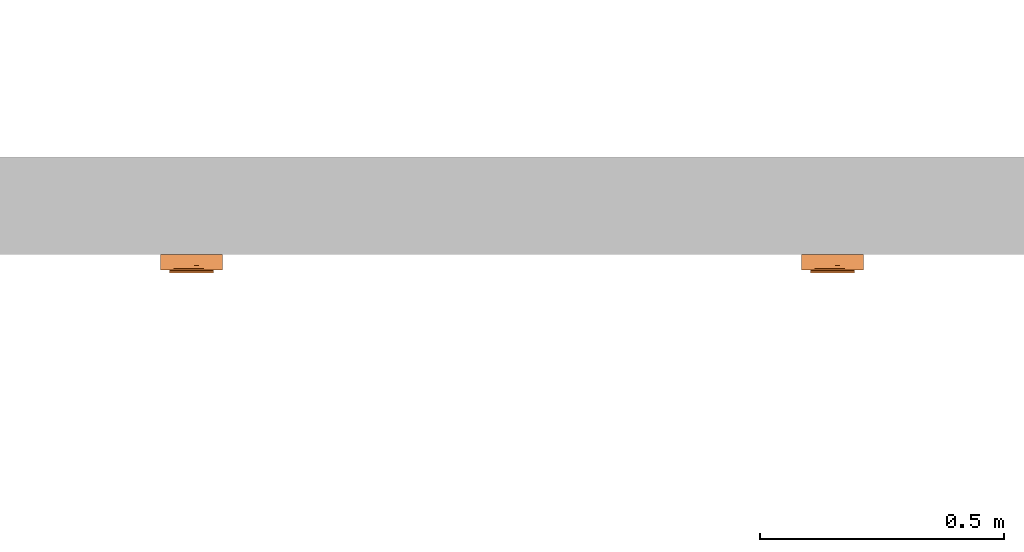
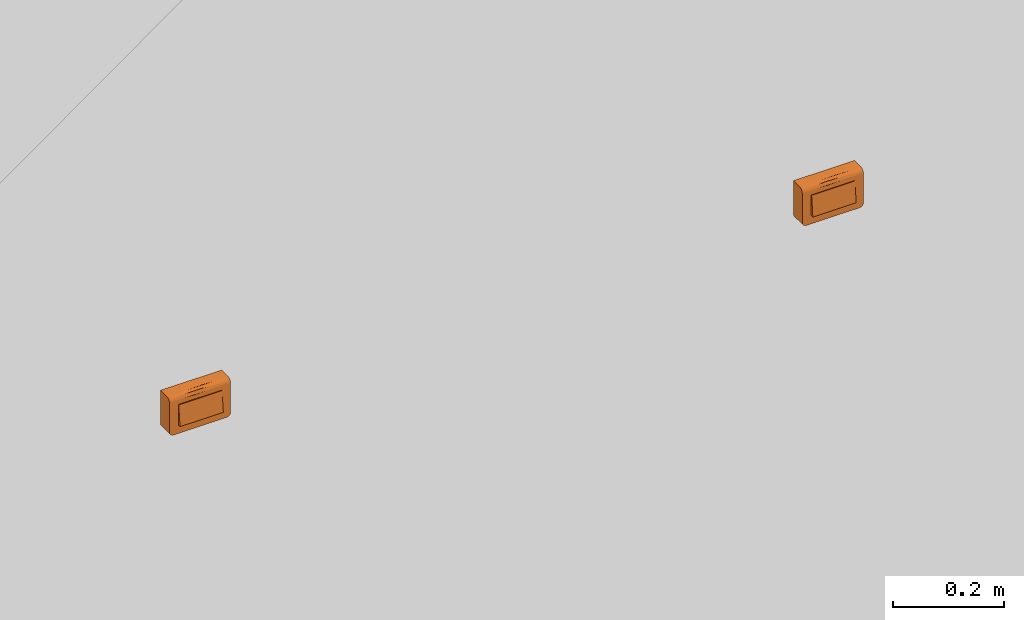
# One storey, part 137 of 197: 2 proxies.
"""IFC2X3 building model written with IfcOpenShell, lengths in metres."""

from ifc_helpers import new_model, entity, si_unit, converted_unit, direction, frame, origin, place, context, subcontext, project, spatial, faceted_brep, source, transform, mapped, material, material_list, type_object, type_shapes, element, save


model = new_model("IFC2X3")

# Units and contexts
model_context = context("Model", 3, precision=1e-05, world=origin(), true_north=direction((6.123031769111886e-17, 1.0)))
body_context = subcontext(model_context, "Body", "Model", "MODEL_VIEW")
ifc_project = project(units=[si_unit("LENGTHUNIT", "METRE"), converted_unit("PLANEANGLEUNIT", "DEGREE", entity("IfcPlaneAngleMeasure", 0.017453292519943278), si_unit("PLANEANGLEUNIT", "RADIAN"), dimensions=[0, 0, 0, 0, 0, 0, 0]), si_unit("AREAUNIT", "SQUARE_METRE")], contexts=[model_context])

# Site, building, storey
site_placement = place(None, origin())
site = spatial("IfcSite", under=ifc_project, at=site_placement, Name="Default", CompositionType="ELEMENT")
building_placement = place(site_placement, origin())
building = spatial("IfcBuilding", under=site, at=building_placement, CompositionType="ELEMENT")
storey_placement = place(building_placement, origin())
storey = spatial("IfcBuildingStorey", under=building, at=storey_placement, Name="Niveau 0", CompositionType="ELEMENT", Elevation=0.0)

# Proxies
ifc_material_1 = material(Name="BETCE-DOIGT-BLANC")
ifc_material_2 = material(Name="BETCE-CADRE-BLANC")
ifc_material_3 = material(Name="BETCE-ENJOLIVEUR-BLANC")
ifc_material_list = material_list([ifc_material_1, ifc_material_2, ifc_material_3])
building_element_proxy_type_1 = type_object("IfcBuildingElementProxyType", Name="Tableau commande 1x4 modules saillie:4 VV", PredefinedType="NOTDEFINED", material=ifc_material_list)
shared_shape_1 = source(origin(), body_context, "Body", "Brep", [
    faceted_brep([(-0.04499999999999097, -0.03350000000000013, 0.022499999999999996), (-0.04499999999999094, -0.038000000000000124, -0.022500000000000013), (-0.022500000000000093, -0.03799999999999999, -0.02249999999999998), (-0.02250000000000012, -0.0335, 0.022499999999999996), (-0.04499999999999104, -0.02299999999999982, -0.022500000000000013), (-0.04499999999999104, -0.02299999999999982, 0.022499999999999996), (-0.022500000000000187, -0.022999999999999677, 0.022499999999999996), (-0.022500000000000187, -0.022999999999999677, -0.022500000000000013)], [[[0, 1, 2, 3]], [[4, 5, 6, 7]], [[5, 4, 1, 0]], [[6, 5, 0, 3]], [[7, 6, 3, 2]], [[4, 7, 2, 1]]]),
    faceted_brep([(0.02250000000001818, -0.03349999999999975, 0.022499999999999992), (0.02250000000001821, -0.03799999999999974, -0.022500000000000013), (0.04500000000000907, -0.03799999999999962, -0.02250000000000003), (0.04500000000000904, -0.03349999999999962, 0.022499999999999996), (0.022500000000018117, -0.02299999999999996, -0.022500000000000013), (0.022500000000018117, -0.02299999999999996, 0.022499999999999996), (0.04500000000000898, -0.022999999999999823, 0.022499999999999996), (0.04500000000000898, -0.022999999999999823, -0.022500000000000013)], [[[0, 1, 2, 3]], [[4, 5, 6, 7]], [[5, 4, 1, 0]], [[6, 5, 0, 3]], [[7, 6, 3, 2]], [[4, 7, 2, 1]]]),
    faceted_brep([(0.0, -0.03349999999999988, 0.022499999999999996), (0.0, -0.03799999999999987, -0.022500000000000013), (0.022499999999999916, -0.03799999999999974, -0.022500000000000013), (0.022499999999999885, -0.03349999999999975, 0.022499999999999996), (0.0, -0.02299999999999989, -0.022500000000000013), (0.0, -0.02299999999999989, 0.022499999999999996), (0.022499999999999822, -0.02299999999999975, 0.022499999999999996), (0.022499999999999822, -0.02299999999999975, -0.022500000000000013)], [[[0, 1, 2, 3]], [[4, 5, 6, 7]], [[5, 4, 1, 0]], [[6, 5, 0, 3]], [[7, 6, 3, 2]], [[4, 7, 2, 1]]]),
    faceted_brep([(0.05550000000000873, -0.02299999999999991, -0.041000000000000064), (0.05757055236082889, -0.0229999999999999, -0.04072740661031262), (0.05950000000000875, -0.022999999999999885, -0.03992820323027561), (0.06115685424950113, -0.022999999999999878, -0.03865685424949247), (0.06242820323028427, -0.022999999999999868, -0.03700000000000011), (0.06322740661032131, -0.022999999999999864, -0.03507055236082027), (0.063500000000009, -0.02299999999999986, -0.033000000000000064), (0.06350000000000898, -0.02299999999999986, 0.04092306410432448), (-0.06349999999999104, -0.023000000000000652, 0.04092306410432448), (-0.06349999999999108, -0.023000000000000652, -0.032999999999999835), (-0.06322740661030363, -0.023000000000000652, -0.03507055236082), (-0.06242820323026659, -0.02300000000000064, -0.03699999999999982), (-0.06115685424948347, -0.023000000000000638, -0.0386568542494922), (-0.05949999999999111, -0.023000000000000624, -0.03992820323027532), (-0.05757055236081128, -0.023000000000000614, -0.040727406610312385), (-0.05549999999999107, -0.0230000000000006, -0.040999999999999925), (-0.05549999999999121, 0.0, -0.04099999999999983), (-0.05757055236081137, 0.0, -0.040727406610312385), (-0.05949999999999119, 0.0, -0.03992820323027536), (-0.061156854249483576, 0.0, -0.03865685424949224), (-0.06242820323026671, 0.0, -0.03699999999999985), (-0.06322740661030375, 0.0, -0.03507055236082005), (-0.06349999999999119, 0.0, -0.032999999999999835), (-0.06349999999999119, 0.0, 0.04092306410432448), (0.06350000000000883, 0.0, 0.04092306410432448), (0.06350000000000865, 0.0, -0.033), (0.0632274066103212, 0.0, -0.03507055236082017), (0.062428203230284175, 0.0, -0.037000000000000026), (0.06115685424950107, 0.0, -0.0386568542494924), (0.059500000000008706, 0.0, -0.039928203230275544), (0.05757055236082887, 0.0, -0.040727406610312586), (0.055500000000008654, 0.0, -0.040999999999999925)], [[[0, 1, 2, 3, 4, 5, 6, 7, 8, 9, 10, 11, 12, 13, 14, 15]], [[16, 17, 18, 19, 20, 21, 22, 23, 24, 25, 26, 27, 28, 29, 30, 31]], [[9, 8, 23, 22]], [[0, 15, 16, 31]], [[7, 6, 25, 24]], [[8, 7, 24, 23]], [[25, 6, 5, 26]], [[26, 5, 4, 27]], [[27, 4, 3, 28]], [[29, 2, 1, 30]], [[30, 1, 0, 31]], [[28, 3, 2, 29]], [[17, 16, 15, 14]], [[18, 17, 14, 13]], [[19, 18, 13, 12]], [[20, 19, 12, 11]], [[21, 20, 11, 10]], [[22, 21, 10, 9]]]),
    faceted_brep([(-0.022500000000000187, -0.02299999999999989, -0.022500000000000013), (-0.022500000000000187, -0.02299999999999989, 0.022499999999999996), (0.0, -0.02299999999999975, 0.022499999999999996), (0.0, -0.02299999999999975, -0.022500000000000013), (-0.022500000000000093, -0.03799999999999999, -0.0225), (-0.02250000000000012, -0.0335, 0.022499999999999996), (0.0, -0.03349999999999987, 0.022499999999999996), (0.0, -0.037999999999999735, -0.022500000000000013)], [[[0, 1, 2, 3]], [[1, 0, 4, 5]], [[2, 1, 5, 6]], [[3, 2, 6, 7]], [[0, 3, 7, 4]], [[5, 4, 7, 6]]]),
    faceted_brep([(0.06350000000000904, -0.031999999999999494, -0.03299999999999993), (0.06350000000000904, -0.031999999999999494, 0.0319999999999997), (0.04500000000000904, -0.031999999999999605, -0.022500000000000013), (0.05550000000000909, -0.03199999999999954, -0.040999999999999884), (0.05757055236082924, -0.03199999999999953, -0.040727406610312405), (0.05950000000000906, -0.03199999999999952, -0.039928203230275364), (0.06115685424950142, -0.03199999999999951, -0.038656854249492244), (0.06322740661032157, -0.031999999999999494, -0.03507055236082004), (0.04500000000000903, -0.031999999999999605, 0.022499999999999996), (-0.04499999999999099, -0.03200000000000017, 0.022499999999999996), (-0.011124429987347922, -0.032000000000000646, 0.031999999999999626), (-0.06349999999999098, -0.032000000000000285, 0.0319999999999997), (-0.04499999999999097, -0.03200000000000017, -0.022500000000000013), (-0.06349999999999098, -0.032000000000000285, -0.032999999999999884), (-0.05549999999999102, -0.03200000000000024, -0.040999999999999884), (-0.057570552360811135, -0.032000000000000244, -0.04072740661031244), (-0.05949999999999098, -0.03200000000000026, -0.0399282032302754), (-0.061156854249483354, -0.032000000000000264, -0.03865685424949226), (-0.06322740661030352, -0.03200000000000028, -0.03507055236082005), (-0.06242820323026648, -0.03200000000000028, -0.03699999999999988), (0.06242820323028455, -0.0319999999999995, -0.03699999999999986), (-0.06349999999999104, -0.023000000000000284, -0.032999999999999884), (-0.06349999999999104, -0.023000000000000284, 0.041000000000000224), (-0.04499999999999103, -0.023000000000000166, 0.022499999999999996), (-0.04499999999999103, -0.023000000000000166, -0.022500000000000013), (-0.05549999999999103, -0.023000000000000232, -0.040999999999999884), (-0.0575705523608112, -0.023000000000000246, -0.04072740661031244), (-0.059499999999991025, -0.023000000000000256, -0.0399282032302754), (-0.06322740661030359, -0.02300000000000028, -0.03507055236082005), (0.04500000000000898, -0.022999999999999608, 0.022499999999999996), (0.011124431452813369, -0.02299999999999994, 0.041000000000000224), (0.06350000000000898, -0.022999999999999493, 0.041000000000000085), (0.06350000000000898, -0.022999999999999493, -0.032999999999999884), (0.04500000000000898, -0.022999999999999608, -0.022500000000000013), (0.055500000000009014, -0.02299999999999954, -0.040999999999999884), (0.05757055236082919, -0.02299999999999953, -0.040727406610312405), (0.059500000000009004, -0.022999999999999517, -0.039928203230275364), (0.06322740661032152, -0.022999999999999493, -0.03507055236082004), (0.061156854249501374, -0.022999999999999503, -0.038656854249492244), (0.06242820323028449, -0.022999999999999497, -0.03699999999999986), (-0.0611568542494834, -0.023000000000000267, -0.03865685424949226), (-0.062428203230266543, -0.023000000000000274, -0.03699999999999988), (0.063500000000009, -0.02532937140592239, 0.04069333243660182), (0.06350000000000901, -0.027499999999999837, 0.039794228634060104), (0.06350000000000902, -0.029363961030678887, 0.03836396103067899), (0.06350000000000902, -0.030794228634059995, 0.03649999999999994), (0.06350000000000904, -0.03169333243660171, 0.03432937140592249), (-0.06349999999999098, -0.03169333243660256, 0.034329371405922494), (-0.063499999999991, -0.030794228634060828, 0.03649999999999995), (-0.063499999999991, -0.029363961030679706, 0.03836396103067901), (-0.06349999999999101, -0.027500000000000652, 0.039794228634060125), (-0.06349999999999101, -0.025329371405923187, 0.04069333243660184), (-0.010857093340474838, -0.02912089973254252, 0.03859807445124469)], [[[0, 1, 2]], [[3, 0, 2]], [[0, 3, 4]], [[0, 4, 5]], [[5, 6, 0]], [[7, 0, 6]], [[2, 1, 8]], [[1, 9, 8]], [[9, 1, 10]], [[9, 10, 11]], [[12, 9, 11]], [[13, 12, 11]], [[14, 12, 13]], [[14, 13, 15]], [[16, 15, 13]], [[13, 17, 16]], [[17, 13, 18]], [[17, 18, 19]], [[12, 14, 3]], [[2, 12, 3]], [[20, 7, 6]], [[21, 22, 23]], [[24, 21, 23]], [[25, 21, 24]], [[21, 25, 26]], [[21, 26, 27]], [[28, 21, 27]], [[22, 29, 23]], [[29, 22, 30]], [[29, 30, 31]], [[32, 29, 31]], [[33, 29, 32]], [[34, 33, 32]], [[34, 32, 35]], [[36, 35, 32]], [[36, 32, 37]], [[37, 38, 36]], [[38, 37, 39]], [[33, 34, 25]], [[24, 33, 25]], [[27, 40, 28]], [[41, 28, 40]], [[1, 0, 32, 31, 42, 43, 44, 45, 46]], [[37, 32, 0, 7]], [[39, 37, 7, 20]], [[38, 39, 20, 6]], [[36, 38, 6, 5]], [[35, 36, 5, 4]], [[34, 35, 4, 3]], [[25, 34, 3, 14]], [[26, 25, 14, 15]], [[27, 26, 15, 16]], [[40, 27, 16, 17]], [[41, 40, 17, 19]], [[28, 41, 19, 18]], [[21, 28, 18, 13]], [[22, 21, 13, 11, 47, 48, 49, 50, 51]], [[52, 10, 45]], [[47, 11, 10]], [[1, 46, 10]], [[44, 52, 45]], [[46, 45, 10]], [[50, 52, 51]], [[48, 47, 10]], [[30, 52, 43]], [[48, 52, 49]], [[42, 31, 30]], [[30, 22, 51]], [[48, 10, 52]], [[30, 43, 42]], [[44, 43, 52]], [[52, 50, 49]], [[52, 30, 51]], [[24, 23, 9, 12]], [[33, 24, 12, 2]], [[29, 33, 2, 8]], [[23, 29, 8, 9]]]),
])
type_shapes(building_element_proxy_type_1, [shared_shape_1])
proxy_1_placement = place(storey_placement, frame((-382.52677966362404, 116.01635778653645, 1.1)))
element("IfcBuildingElementProxy", 1, at=proxy_1_placement, inside=storey, type_object=building_element_proxy_type_1, material=ifc_material_list, Name="Tableau commande 1x4 modules saillie:4 VV", ObjectType="Tableau commande 1x4 modules saillie:4 VV", context=body_context, shape_type="MappedRepresentation", body=[
    mapped(shared_shape_1, transform((0.0, 0.0, 0.0), scale=1.0)),
])
building_element_proxy_type_2 = type_object("IfcBuildingElementProxyType", Name="Tableau commande 1x4 modules saillie:1 SA + 1 BP + 2 VV", PredefinedType="NOTDEFINED", material=ifc_material_list)
shared_shape_2 = source(origin(), body_context, "Body", "Brep", [
    faceted_brep([(-0.04499999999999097, -0.03350000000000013, 0.022499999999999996), (-0.04499999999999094, -0.038000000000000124, -0.022500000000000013), (-0.022500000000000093, -0.03799999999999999, -0.02249999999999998), (-0.02250000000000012, -0.0335, 0.022499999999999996), (-0.04499999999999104, -0.02299999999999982, -0.022500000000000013), (-0.04499999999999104, -0.02299999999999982, 0.022499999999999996), (-0.022500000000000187, -0.022999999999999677, 0.022499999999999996), (-0.022500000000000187, -0.022999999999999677, -0.022500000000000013)], [[[0, 1, 2, 3]], [[4, 5, 6, 7]], [[5, 4, 1, 0]], [[6, 5, 0, 3]], [[7, 6, 3, 2]], [[4, 7, 2, 1]]]),
    faceted_brep([(0.02250000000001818, -0.03349999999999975, 0.022499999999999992), (0.02250000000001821, -0.03799999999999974, -0.022500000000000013), (0.04500000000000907, -0.03799999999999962, -0.02250000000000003), (0.04500000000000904, -0.03349999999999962, 0.022499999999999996), (0.022500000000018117, -0.02299999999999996, -0.022500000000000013), (0.022500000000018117, -0.02299999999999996, 0.022499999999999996), (0.04500000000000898, -0.022999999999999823, 0.022499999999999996), (0.04500000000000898, -0.022999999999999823, -0.022500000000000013)], [[[0, 1, 2, 3]], [[4, 5, 6, 7]], [[5, 4, 1, 0]], [[6, 5, 0, 3]], [[7, 6, 3, 2]], [[4, 7, 2, 1]]]),
    faceted_brep([(0.0, -0.03349999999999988, 0.022499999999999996), (0.0, -0.03799999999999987, -0.022500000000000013), (0.022499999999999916, -0.03799999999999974, -0.022500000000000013), (0.022499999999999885, -0.03349999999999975, 0.022499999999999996), (0.0, -0.02299999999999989, -0.022500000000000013), (0.0, -0.02299999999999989, 0.022499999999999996), (0.022499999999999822, -0.02299999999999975, 0.022499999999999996), (0.022499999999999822, -0.02299999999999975, -0.022500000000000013)], [[[0, 1, 2, 3]], [[4, 5, 6, 7]], [[5, 4, 1, 0]], [[6, 5, 0, 3]], [[7, 6, 3, 2]], [[4, 7, 2, 1]]]),
    faceted_brep([(0.05550000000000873, -0.02299999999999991, -0.041000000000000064), (0.05757055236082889, -0.0229999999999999, -0.04072740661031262), (0.05950000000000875, -0.022999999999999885, -0.03992820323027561), (0.06115685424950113, -0.022999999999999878, -0.03865685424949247), (0.06242820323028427, -0.022999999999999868, -0.03700000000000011), (0.06322740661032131, -0.022999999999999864, -0.03507055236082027), (0.063500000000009, -0.02299999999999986, -0.033000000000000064), (0.06350000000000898, -0.02299999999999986, 0.04092306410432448), (-0.06349999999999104, -0.023000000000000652, 0.04092306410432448), (-0.06349999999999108, -0.023000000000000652, -0.032999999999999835), (-0.06322740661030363, -0.023000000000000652, -0.03507055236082), (-0.06242820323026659, -0.02300000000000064, -0.03699999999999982), (-0.06115685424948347, -0.023000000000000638, -0.0386568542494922), (-0.05949999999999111, -0.023000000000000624, -0.03992820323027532), (-0.05757055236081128, -0.023000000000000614, -0.040727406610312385), (-0.05549999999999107, -0.0230000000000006, -0.040999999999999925), (-0.05549999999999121, 0.0, -0.04099999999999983), (-0.05757055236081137, 0.0, -0.040727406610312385), (-0.05949999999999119, 0.0, -0.03992820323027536), (-0.061156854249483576, 0.0, -0.03865685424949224), (-0.06242820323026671, 0.0, -0.03699999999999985), (-0.06322740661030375, 0.0, -0.03507055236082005), (-0.06349999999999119, 0.0, -0.032999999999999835), (-0.06349999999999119, 0.0, 0.04092306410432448), (0.06350000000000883, 0.0, 0.04092306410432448), (0.06350000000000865, 0.0, -0.033), (0.0632274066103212, 0.0, -0.03507055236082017), (0.062428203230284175, 0.0, -0.037000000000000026), (0.06115685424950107, 0.0, -0.0386568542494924), (0.059500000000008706, 0.0, -0.039928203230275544), (0.05757055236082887, 0.0, -0.040727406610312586), (0.055500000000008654, 0.0, -0.040999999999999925)], [[[0, 1, 2, 3, 4, 5, 6, 7, 8, 9, 10, 11, 12, 13, 14, 15]], [[16, 17, 18, 19, 20, 21, 22, 23, 24, 25, 26, 27, 28, 29, 30, 31]], [[9, 8, 23, 22]], [[0, 15, 16, 31]], [[7, 6, 25, 24]], [[8, 7, 24, 23]], [[25, 6, 5, 26]], [[26, 5, 4, 27]], [[27, 4, 3, 28]], [[29, 2, 1, 30]], [[30, 1, 0, 31]], [[28, 3, 2, 29]], [[17, 16, 15, 14]], [[18, 17, 14, 13]], [[19, 18, 13, 12]], [[20, 19, 12, 11]], [[21, 20, 11, 10]], [[22, 21, 10, 9]]]),
    faceted_brep([(-0.022500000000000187, -0.02299999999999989, -0.022500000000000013), (-0.022500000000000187, -0.02299999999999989, 0.022499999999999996), (0.0, -0.02299999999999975, 0.022499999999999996), (0.0, -0.02299999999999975, -0.022500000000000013), (-0.022500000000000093, -0.03799999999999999, -0.0225), (-0.02250000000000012, -0.0335, 0.022499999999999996), (0.0, -0.03349999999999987, 0.022499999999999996), (0.0, -0.037999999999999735, -0.022500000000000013)], [[[0, 1, 2, 3]], [[1, 0, 4, 5]], [[2, 1, 5, 6]], [[3, 2, 6, 7]], [[0, 3, 7, 4]], [[5, 4, 7, 6]]]),
    faceted_brep([(0.06350000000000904, -0.031999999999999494, -0.03299999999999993), (0.06350000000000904, -0.031999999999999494, 0.0319999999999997), (0.04500000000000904, -0.031999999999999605, -0.022500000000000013), (0.05550000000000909, -0.03199999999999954, -0.040999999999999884), (0.05757055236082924, -0.03199999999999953, -0.040727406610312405), (0.05950000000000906, -0.03199999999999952, -0.039928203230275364), (0.06115685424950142, -0.03199999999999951, -0.038656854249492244), (0.06322740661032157, -0.031999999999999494, -0.03507055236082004), (0.04500000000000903, -0.031999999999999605, 0.022499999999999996), (-0.04499999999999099, -0.03200000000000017, 0.022499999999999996), (-0.011124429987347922, -0.032000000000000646, 0.031999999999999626), (-0.06349999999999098, -0.032000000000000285, 0.0319999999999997), (-0.04499999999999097, -0.03200000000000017, -0.022500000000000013), (-0.06349999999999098, -0.032000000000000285, -0.032999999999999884), (-0.05549999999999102, -0.03200000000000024, -0.040999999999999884), (-0.057570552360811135, -0.032000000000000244, -0.04072740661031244), (-0.05949999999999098, -0.03200000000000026, -0.0399282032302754), (-0.061156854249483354, -0.032000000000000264, -0.03865685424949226), (-0.06322740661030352, -0.03200000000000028, -0.03507055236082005), (-0.06242820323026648, -0.03200000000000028, -0.03699999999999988), (0.06242820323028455, -0.0319999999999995, -0.03699999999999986), (-0.06349999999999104, -0.023000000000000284, -0.032999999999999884), (-0.06349999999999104, -0.023000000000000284, 0.041000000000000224), (-0.04499999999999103, -0.023000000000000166, 0.022499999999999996), (-0.04499999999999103, -0.023000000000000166, -0.022500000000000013), (-0.05549999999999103, -0.023000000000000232, -0.040999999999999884), (-0.0575705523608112, -0.023000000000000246, -0.04072740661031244), (-0.059499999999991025, -0.023000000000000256, -0.0399282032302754), (-0.06322740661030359, -0.02300000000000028, -0.03507055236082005), (0.04500000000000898, -0.022999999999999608, 0.022499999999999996), (0.011124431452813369, -0.02299999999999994, 0.041000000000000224), (0.06350000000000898, -0.022999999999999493, 0.041000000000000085), (0.06350000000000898, -0.022999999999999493, -0.032999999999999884), (0.04500000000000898, -0.022999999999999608, -0.022500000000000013), (0.055500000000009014, -0.02299999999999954, -0.040999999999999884), (0.05757055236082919, -0.02299999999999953, -0.040727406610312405), (0.059500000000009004, -0.022999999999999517, -0.039928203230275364), (0.06322740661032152, -0.022999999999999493, -0.03507055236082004), (0.061156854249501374, -0.022999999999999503, -0.038656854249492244), (0.06242820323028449, -0.022999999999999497, -0.03699999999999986), (-0.0611568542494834, -0.023000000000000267, -0.03865685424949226), (-0.062428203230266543, -0.023000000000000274, -0.03699999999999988), (0.063500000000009, -0.02532937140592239, 0.04069333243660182), (0.06350000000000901, -0.027499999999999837, 0.039794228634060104), (0.06350000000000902, -0.029363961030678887, 0.03836396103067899), (0.06350000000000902, -0.030794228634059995, 0.03649999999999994), (0.06350000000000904, -0.03169333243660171, 0.03432937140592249), (-0.06349999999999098, -0.03169333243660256, 0.034329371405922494), (-0.063499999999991, -0.030794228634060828, 0.03649999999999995), (-0.063499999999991, -0.029363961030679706, 0.03836396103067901), (-0.06349999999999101, -0.027500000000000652, 0.039794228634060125), (-0.06349999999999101, -0.025329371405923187, 0.04069333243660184), (-0.010857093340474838, -0.02912089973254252, 0.03859807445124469)], [[[0, 1, 2]], [[3, 0, 2]], [[0, 3, 4]], [[0, 4, 5]], [[5, 6, 0]], [[7, 0, 6]], [[2, 1, 8]], [[1, 9, 8]], [[9, 1, 10]], [[9, 10, 11]], [[12, 9, 11]], [[13, 12, 11]], [[14, 12, 13]], [[14, 13, 15]], [[16, 15, 13]], [[13, 17, 16]], [[17, 13, 18]], [[17, 18, 19]], [[12, 14, 3]], [[2, 12, 3]], [[20, 7, 6]], [[21, 22, 23]], [[24, 21, 23]], [[25, 21, 24]], [[21, 25, 26]], [[21, 26, 27]], [[28, 21, 27]], [[22, 29, 23]], [[29, 22, 30]], [[29, 30, 31]], [[32, 29, 31]], [[33, 29, 32]], [[34, 33, 32]], [[34, 32, 35]], [[36, 35, 32]], [[36, 32, 37]], [[37, 38, 36]], [[38, 37, 39]], [[33, 34, 25]], [[24, 33, 25]], [[27, 40, 28]], [[41, 28, 40]], [[1, 0, 32, 31, 42, 43, 44, 45, 46]], [[37, 32, 0, 7]], [[39, 37, 7, 20]], [[38, 39, 20, 6]], [[36, 38, 6, 5]], [[35, 36, 5, 4]], [[34, 35, 4, 3]], [[25, 34, 3, 14]], [[26, 25, 14, 15]], [[27, 26, 15, 16]], [[40, 27, 16, 17]], [[41, 40, 17, 19]], [[28, 41, 19, 18]], [[21, 28, 18, 13]], [[22, 21, 13, 11, 47, 48, 49, 50, 51]], [[52, 10, 45]], [[47, 11, 10]], [[1, 46, 10]], [[44, 52, 45]], [[46, 45, 10]], [[50, 52, 51]], [[48, 47, 10]], [[30, 52, 43]], [[48, 52, 49]], [[42, 31, 30]], [[30, 22, 51]], [[48, 10, 52]], [[30, 43, 42]], [[44, 43, 52]], [[52, 50, 49]], [[52, 30, 51]], [[24, 23, 9, 12]], [[33, 24, 12, 2]], [[29, 33, 2, 8]], [[23, 29, 8, 9]]]),
])
type_shapes(building_element_proxy_type_2, [shared_shape_2])
proxy_2_placement = place(storey_placement, frame((-381.211779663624, 116.01635778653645, 1.1)))
element("IfcBuildingElementProxy", 2, at=proxy_2_placement, inside=storey, type_object=building_element_proxy_type_2, material=ifc_material_list, Name="Tableau commande 1x4 modules saillie:1 SA + 1 BP + 2 VV", ObjectType="Tableau commande 1x4 modules saillie:1 SA + 1 BP + 2 VV", context=body_context, shape_type="MappedRepresentation", body=[
    mapped(shared_shape_2, transform((0.0, 0.0, 0.0), scale=1.0)),
])

save(model, "model.ifc")
